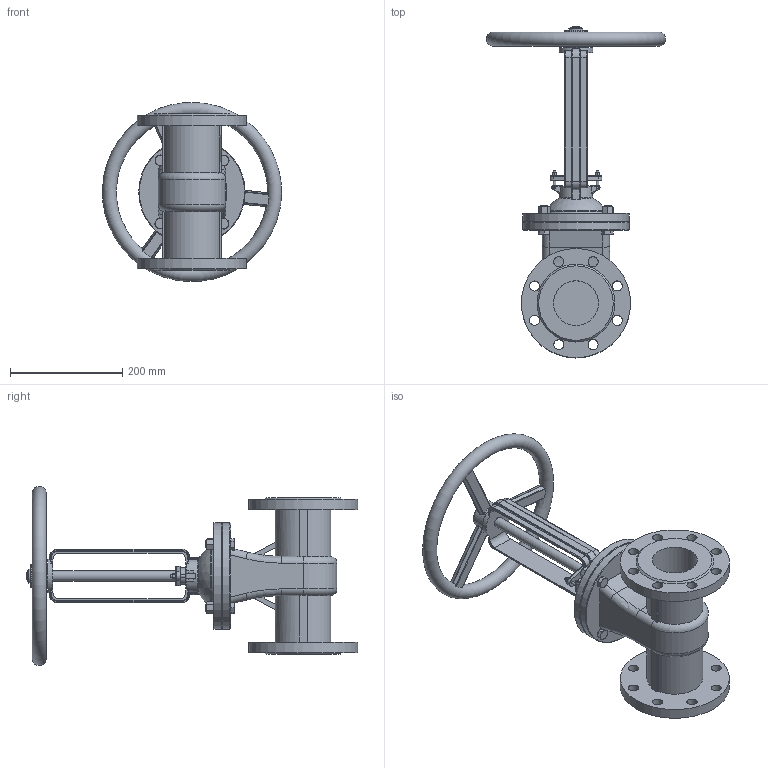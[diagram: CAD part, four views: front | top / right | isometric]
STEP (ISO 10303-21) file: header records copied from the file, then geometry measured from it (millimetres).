
FILE_DESCRIPTION(('STEP AP242'), '1');
FILE_NAME('GVWR3131M-2W-F-S Çàäâèæêà êëèíîâàÿ ñ âûäâèæíûì øòîêîì DN.ru Äó80 Ðó25', '2026-05-31T09:02:44', ('R2D2'), (''), 'C3D Converter', 'C3D Toolkit', '');
FILE_SCHEMA(('AP242_MANAGED_MODEL_BASED_3D_ENGINEERING_MIM_LF { 1 0 10303 442 1 1 4 }'));
Length unit declared in the file: millimetre
Products named in the file (1): GVWR3131M-2W-F-S
Bounding box: 319.86 x 592.5 x 319.73 mm (x, y, z)
Volume: 4952576.4 mm3; surface area: 602029.3 mm2
Topology: 1 solids, 3 shells, 882 faces, 2238 edges, 1400 vertices
Faces by surface type: plane 368, cylinder 180, cone 109, extrusion 106, torus 59, bspline 59, sphere 1
Full cylindrical faces by diameter (mm): 3 x3, 5 x4, 8 x2, 12 x8, 18 x18, 20 x1, 25 x1, 30 x1, 40 x2, 50 x1, 60 x1, 80 x2, 110 x2, 190 x2, 195 x2
Entity records: 49554 total; most frequent: CARTESIAN_POINT 22526, ORIENTED_EDGE 4322, DIRECTION 3561, EDGE_CURVE 2161, VERTEX_POINT 1395, AXIS2_PLACEMENT_3D 1286, EDGE_LOOP 1062, VECTOR 989
